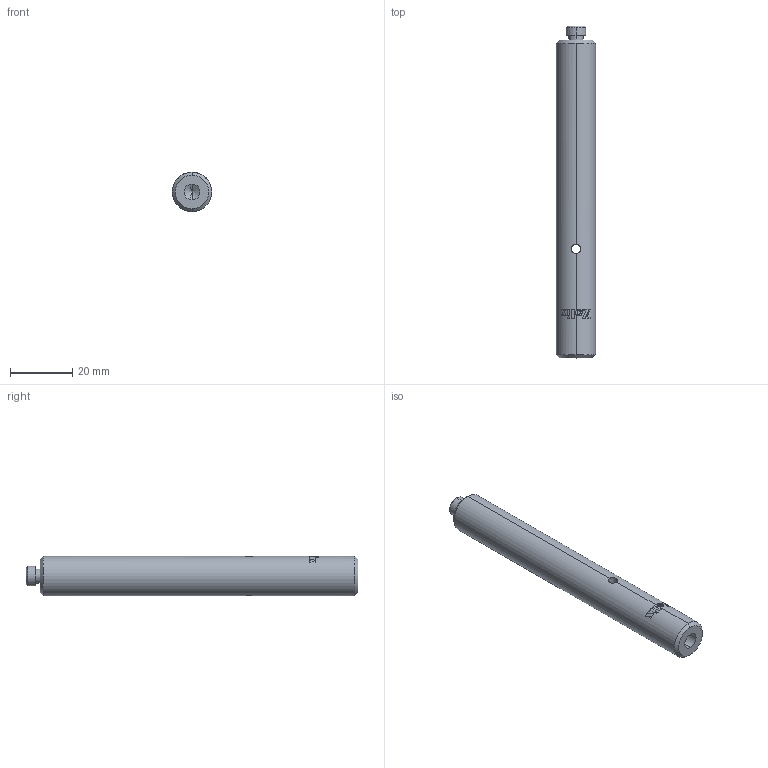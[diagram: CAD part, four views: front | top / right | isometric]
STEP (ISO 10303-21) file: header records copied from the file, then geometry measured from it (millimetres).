
FILE_DESCRIPTION (( 'STEP AP203' ), '1' );
FILE_NAME ('PEP12.7-102.step', '2019-05-09T09:05:42', ( '' ), ( '' ), 'SwSTEP 2.0', 'SolidWorks 2016', '' );
FILE_SCHEMA (( 'CONFIG_CONTROL_DESIGN' ));
Length unit declared in the file: millimetre
Products named in the file (1): PEP12.7-102
Bounding box: 12.7 x 106.5 x 12.71 mm (x, y, z)
Volume: 12695.6 mm3; surface area: 4648.2 mm2
Topology: 1 solids, 1 shells, 172 faces, 475 edges, 313 vertices
Faces by surface type: bspline 121, plane 23, cylinder 20, cone 8
Entity records: 6178 total; most frequent: CARTESIAN_POINT 2794, ORIENTED_EDGE 946, EDGE_CURVE 473, B_SPLINE_CURVE_WITH_KNOTS 382, VERTEX_POINT 313, DIRECTION 243, EDGE_LOOP 184, FACE_OUTER_BOUND 172
